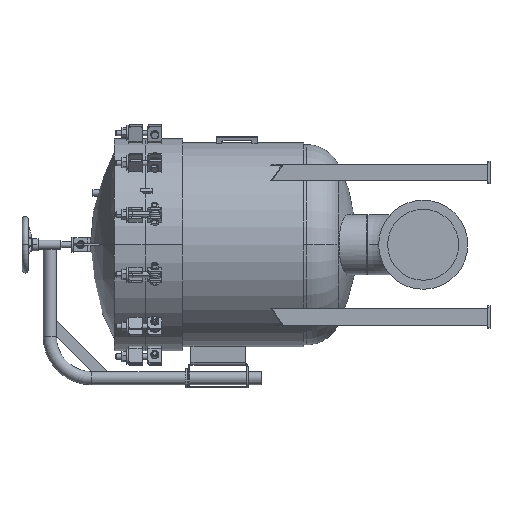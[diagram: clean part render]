
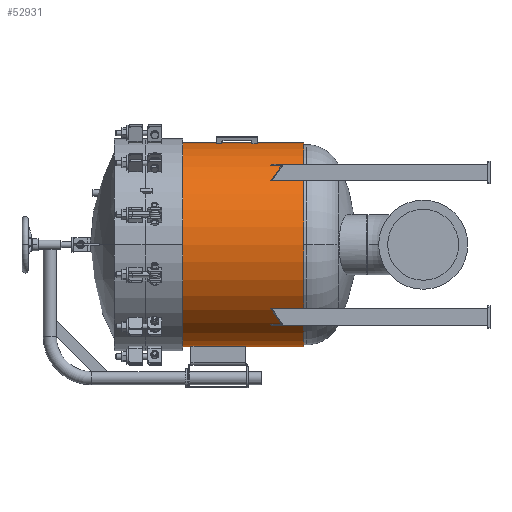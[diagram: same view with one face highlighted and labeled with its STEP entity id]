
A CAD part, left-side view. The second image highlights one B-rep face of the part: STEP entity #52931.
In plain terms, the highlighted cylindrical face has radius 465.137 mm (diameter 930.275 mm), a partial arc.
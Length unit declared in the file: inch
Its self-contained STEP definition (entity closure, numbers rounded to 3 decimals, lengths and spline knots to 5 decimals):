
#705 = CYLINDRICAL_SURFACE ( 'NONE', #40953, 18.3125 ) ;
#4105 = EDGE_CURVE ( 'NONE', #38568, #14953, #28747, .T. ) ;
#4756 = EDGE_CURVE ( 'NONE', #26264, #44426, #61005, .T. ) ;
#5183 = DIRECTION ( 'NONE',  ( 0., -1., 0. ) ) ;
#8643 = DIRECTION ( 'NONE',  ( 0., -1., 0. ) ) ;
#10428 = CARTESIAN_POINT ( 'NONE',  ( 0., -3.46875, 18.3125 ) ) ;
#11199 = DIRECTION ( 'NONE',  ( 1., 0., 0. ) ) ;
#12877 = EDGE_CURVE ( 'NONE', #14953, #44426, #46462, .T. ) ;
#12992 = DIRECTION ( 'NONE',  ( 1., 0., 0. ) ) ;
#14953 = VERTEX_POINT ( 'NONE', #47086 ) ;
#15816 = ORIENTED_EDGE ( 'NONE', *, *, #12877, .T. ) ;
#20949 = ORIENTED_EDGE ( 'NONE', *, *, #4756, .F. ) ;
#23048 = CARTESIAN_POINT ( 'NONE',  ( 0., -3.46875, 0. ) ) ;
#26264 = VERTEX_POINT ( 'NONE', #10428 ) ;
#28747 = LINE ( 'NONE', #63094, #50794 ) ;
#29997 = DIRECTION ( 'NONE',  ( 0., 1., 0. ) ) ;
#31135 = ORIENTED_EDGE ( 'NONE', *, *, #45231, .F. ) ;
#36251 = CARTESIAN_POINT ( 'NONE',  ( 0., -28.46875, 0. ) ) ;
#38568 = VERTEX_POINT ( 'NONE', #59570 ) ;
#39544 = DIRECTION ( 'NONE',  ( 0., 0., -1. ) ) ;
#40953 = AXIS2_PLACEMENT_3D ( 'NONE', #63182, #44724, #39544 ) ;
#43629 = CARTESIAN_POINT ( 'NONE',  ( 0., -28.46875, 18.3125 ) ) ;
#44426 = VERTEX_POINT ( 'NONE', #43629 ) ;
#44724 = DIRECTION ( 'NONE',  ( 0., -1., 0. ) ) ;
#44844 = DIRECTION ( 'NONE',  ( 0., 1., 0. ) ) ;
#45231 = EDGE_CURVE ( 'NONE', #38568, #26264, #61752, .T. ) ;
#45462 = CARTESIAN_POINT ( 'NONE',  ( 0., -3.46875, 18.3125 ) ) ;
#46462 = CIRCLE ( 'NONE', #70098, 18.3125 ) ;
#47086 = CARTESIAN_POINT ( 'NONE',  ( 0., -28.46875, -18.3125 ) ) ;
#50794 = VECTOR ( 'NONE', #8643, 39.37008 ) ;
#51105 = ORIENTED_EDGE ( 'NONE', *, *, #4105, .T. ) ;
#52090 = FACE_OUTER_BOUND ( 'NONE', #57545, .T. ) ;
#52931 = ADVANCED_FACE ( 'NONE', ( #52090 ), #705, .T. ) ;
#57545 = EDGE_LOOP ( 'NONE', ( #20949, #31135, #51105, #15816 ) ) ;
#59570 = CARTESIAN_POINT ( 'NONE',  ( 0., -3.46875, -18.3125 ) ) ;
#61005 = LINE ( 'NONE', #45462, #65771 ) ;
#61752 = CIRCLE ( 'NONE', #70037, 18.3125 ) ;
#63094 = CARTESIAN_POINT ( 'NONE',  ( 0., -3.46875, -18.3125 ) ) ;
#63182 = CARTESIAN_POINT ( 'NONE',  ( 0., -3.46875, 0. ) ) ;
#65771 = VECTOR ( 'NONE', #5183, 39.37008 ) ;
#70037 = AXIS2_PLACEMENT_3D ( 'NONE', #23048, #44844, #11199 ) ;
#70098 = AXIS2_PLACEMENT_3D ( 'NONE', #36251, #29997, #12992 ) ;
